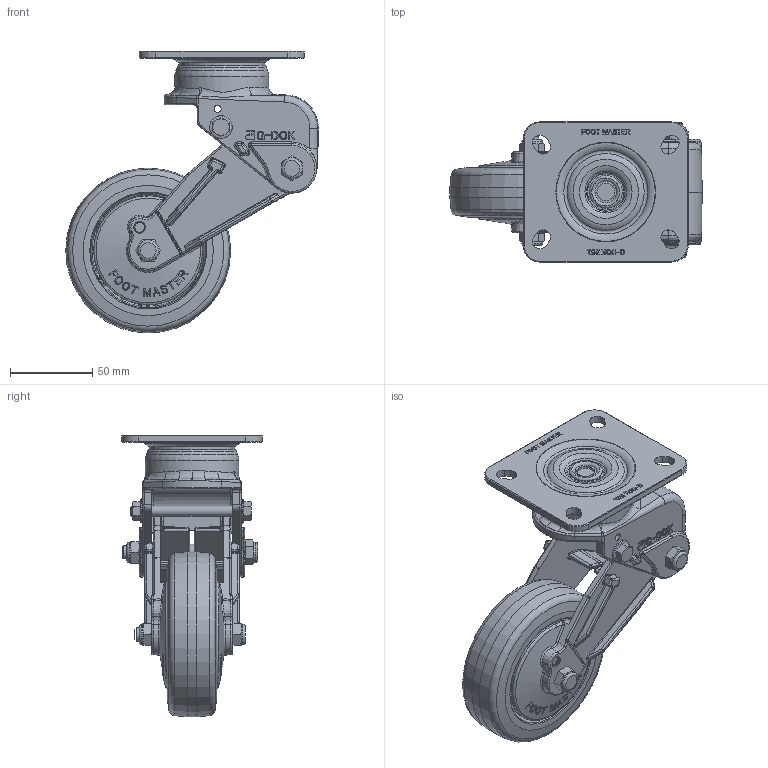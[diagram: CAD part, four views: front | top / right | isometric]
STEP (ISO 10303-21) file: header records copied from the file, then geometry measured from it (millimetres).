
FILE_DESCRIPTION(/* description */ (''),/* implementation_level */ '2;1');
FILE_NAME(/* name */ 'Z:\1.기술연구소\2.연구개발 진행중\25.충격흡수식_BBB\JYH\GDS-100-BB\2020년도\3.도면\1.3D\STEP-FILE\홈페이지용 3D_전달용\GDSB-100-ARF-LUD_PEU.stp',/* time_stamp */ '2021-10-08T20:26:34+09:00',/* author */ ('admin'),/* organization */ (''),/* preprocessor_version */ 'ST-DEVELOPER v18.1',/* originating_system */ 'Autodesk Inventor 2021',/* authorisation */ '');
FILE_SCHEMA (('AUTOMOTIVE_DESIGN { 1 0 10303 214 3 1 1 }'));
Length unit declared in the file: millimetre
Products named in the file (1): GDSB-100-ARF-LUD_PEU
Bounding box: 153.11 x 85 x 171 mm (x, y, z)
Volume: 374619.9 mm3; surface area: 121931.8 mm2
Topology: 1 solids, 2 shells, 2659 faces, 6671 edges, 4072 vertices
Faces by surface type: bspline 1008, plane 876, cylinder 386, cone 192, torus 169, sphere 28
Full cylindrical faces by diameter (mm): 4.2 x2, 6 x2, 6.2 x2, 7.4 x1, 7.95 x5, 8.2 x2, 9.95 x1, 10.2 x4, 10.7 x1, 11.6 x2, 12.5 x4, 14 x2, 20 x2, 22.347 x2, 39 x1, 47.452 x1, 52 x1, 57 x1, 100 x1
Entity records: 105561 total; most frequent: CARTESIAN_POINT 44635, ORIENTED_EDGE 13198, DIRECTION 10557, EDGE_CURVE 6599, VERTEX_POINT 4072, AXIS2_PLACEMENT_3D 4033, EDGE_LOOP 2813, FACE_OUTER_BOUND 2659
